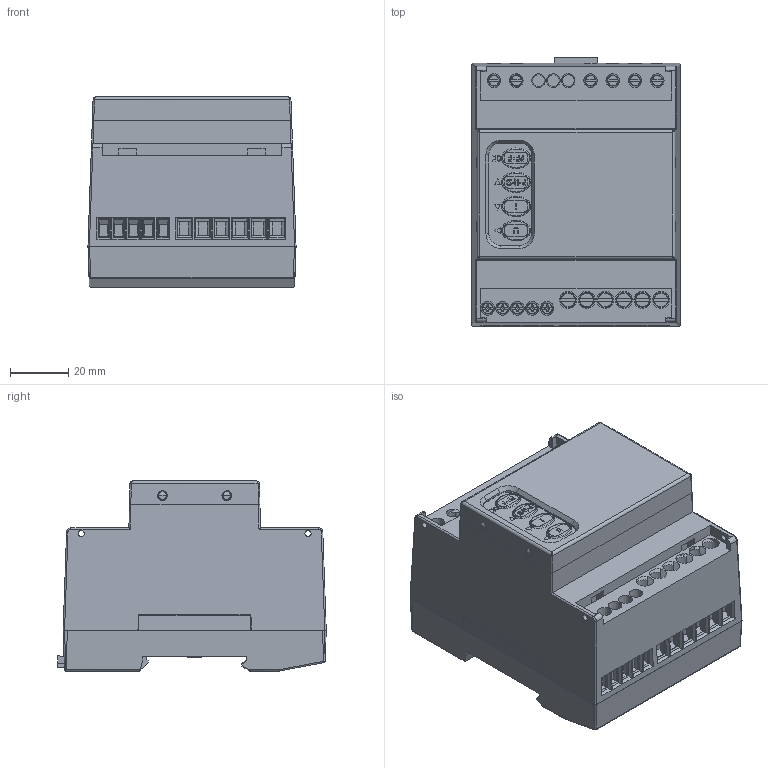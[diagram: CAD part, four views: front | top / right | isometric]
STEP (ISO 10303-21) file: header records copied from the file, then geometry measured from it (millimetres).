
FILE_DESCRIPTION(/* description */ ('CATIA V5 STEP'),/* implementation_level */ '2;1');
FILE_NAME(/* name */ 'IM-TM4PT0W.stp',/* time_stamp */ '2024-10-17T09:08:01+02:00',/* author */ ('bassicla'),/* organization */ ('Bticino S.p.A.'),/* preprocessor_version */ 'ST-DEVELOPER v19.2',/* originating_system */ 'Autodesk Inventor 2023',/* authorisation */ 'none');
FILE_SCHEMA (('AUTOMOTIVE_DESIGN { 1 0 10303 214 3 1 1 }'));
Products named in the file (13): Assieme D4 Basic EC ; Easy Connect Base con foro cieco perno; 13520100 Copertura Nemo D4-e; 13552440 - COPERCHIO NEMO D4-Le; 11450114 rev 1 Hook revision; Morsettiera 3x6.35 MSP0300S; Morsettiera 3x6.35 MSP0300S_1; msq02005-0g00w; Morsettiera 2x7.62 MSQ02007; Morsettiera 2x7.62 MSQ02007_1; Morsettiera 2x7.62 MSQ02007_2; msq03005-0g00w; Pellicola termoformata
Assembly tree (12 placements, depth 2):
  Assieme D4 Basic EC 
    Easy Connect Base con foro cieco perno
    13520100 Copertura Nemo D4-e
    13552440 - COPERCHIO NEMO D4-Le
    11450114 rev 1 Hook revision
    Morsettiera 3x6.35 MSP0300S
    Morsettiera 3x6.35 MSP0300S_1
    msq02005-0g00w
    Morsettiera 2x7.62 MSQ02007
    Morsettiera 2x7.62 MSQ02007_1
    Morsettiera 2x7.62 MSQ02007_2
    msq03005-0g00w
    Pellicola termoformata
Bounding box: 71.2 x 91.82 x 65 mm (x, y, z)
Volume: 84551.8 mm3; surface area: 96332.6 mm2
Topology: 12 solids, 12 shells, 2749 faces, 7490 edges, 4934 vertices
Faces by surface type: plane 2117, cylinder 368, cone 160, bspline 54, torus 50
Full cylindrical faces by diameter (mm): 1 x6, 1.15 x1, 1.2 x4, 1.3 x6, 1.4 x11, 1.5 x1, 2.1 x4, 2.3 x5, 2.65 x5, 3 x4, 3.3 x4, 3.85 x11, 4 x11, 5 x6, 5.15 x6
Entity records: 95678 total; most frequent: CARTESIAN_POINT 24576, ORIENTED_EDGE 14944, DIRECTION 13506, EDGE_CURVE 7472, LINE 5514, VECTOR 5514, VERTEX_POINT 4934, AXIS2_PLACEMENT_3D 3996
